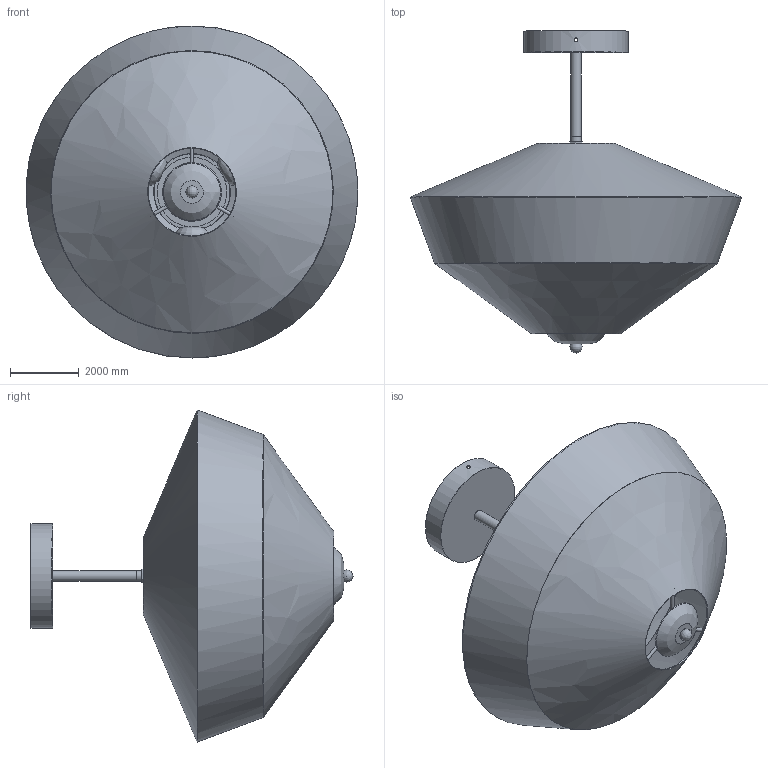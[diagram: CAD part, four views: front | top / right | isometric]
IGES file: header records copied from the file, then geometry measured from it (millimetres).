
Global section: file name: Stefanie Pleated Ceiling Lamp-D15″,4; native system: 8HAutoCAD 2022 - 简体中文 (Simplified Chinese); preprocessor: Autodesk Translation Framework DWG producer (atf_dwg_producer); organization: unknown; date: 20251019.165105; units: inch
Bounding box: 9672.99 x 9398.08 x 9688.9 mm (x, y, z)
Volume: 12048683667.4 mm3; surface area: 473807606.3 mm2
Topology: 23 solids, 23 shells, 176 faces, 413 edges, 291 vertices
Faces by surface type: bspline 176
